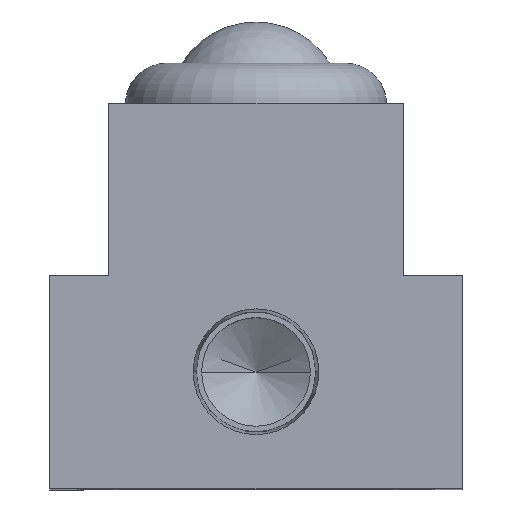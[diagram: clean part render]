
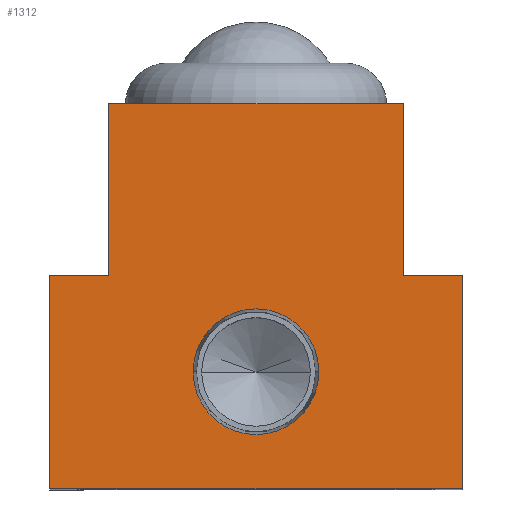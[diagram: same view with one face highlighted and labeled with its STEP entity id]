
A CAD part, top view. The second image highlights one B-rep face of the part: STEP entity #1312.
In plain terms, the highlighted planar face has unit normal (0, 0, 1).
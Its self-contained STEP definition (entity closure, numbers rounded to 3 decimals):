
#7 = CARTESIAN_POINT ( 'NONE',  ( -10.7, 15.5, 0. ) ) ;
#35 = CARTESIAN_POINT ( 'NONE',  ( -4.574, 8.5, 0. ) ) ;
#45 = CARTESIAN_POINT ( 'NONE',  ( -10.7, 28., 0. ) ) ;
#53 = VERTEX_POINT ( 'NONE', #7 ) ;
#73 = LINE ( 'NONE', #45, #1296 ) ;
#94 = DIRECTION ( 'NONE',  ( 1., 0., 0. ) ) ;
#114 = DIRECTION ( 'NONE',  ( -1., 0., 0. ) ) ;
#134 = CARTESIAN_POINT ( 'NONE',  ( 0., 0., 0. ) ) ;
#154 = VECTOR ( 'NONE', #1339, 1000. ) ;
#187 = CARTESIAN_POINT ( 'NONE',  ( -10.7, 28., 0. ) ) ;
#194 = ORIENTED_EDGE ( 'NONE', *, *, #1491, .T. ) ;
#215 = EDGE_CURVE ( 'NONE', #1213, #1376, #557, .T. ) ;
#246 = DIRECTION ( 'NONE',  ( 0., 0., 1. ) ) ;
#301 = LINE ( 'NONE', #745, #893 ) ;
#303 = VERTEX_POINT ( 'NONE', #990 ) ;
#347 = ORIENTED_EDGE ( 'NONE', *, *, #1210, .T. ) ;
#367 = EDGE_CURVE ( 'NONE', #873, #1161, #615, .T. ) ;
#381 = CARTESIAN_POINT ( 'NONE',  ( 10.7, 28., 0. ) ) ;
#386 = EDGE_CURVE ( 'NONE', #303, #1213, #1010, .T. ) ;
#389 = AXIS2_PLACEMENT_3D ( 'NONE', #444, #1295, #559 ) ;
#423 = CARTESIAN_POINT ( 'NONE',  ( -10.7, 15.5, 0. ) ) ;
#428 = ORIENTED_EDGE ( 'NONE', *, *, #215, .T. ) ;
#442 = VERTEX_POINT ( 'NONE', #1142 ) ;
#444 = CARTESIAN_POINT ( 'NONE',  ( 0., 8.5, 0. ) ) ;
#448 = LINE ( 'NONE', #1215, #154 ) ;
#458 = CIRCLE ( 'NONE', #389, 4.574 ) ;
#528 = ORIENTED_EDGE ( 'NONE', *, *, #1177, .F. ) ;
#557 = LINE ( 'NONE', #1098, #1462 ) ;
#559 = DIRECTION ( 'NONE',  ( 1., 0., 0. ) ) ;
#565 = CARTESIAN_POINT ( 'NONE',  ( 10.7, 15.5, 0. ) ) ;
#567 = VECTOR ( 'NONE', #659, 1000. ) ;
#615 = LINE ( 'NONE', #187, #894 ) ;
#656 = ORIENTED_EDGE ( 'NONE', *, *, #386, .T. ) ;
#659 = DIRECTION ( 'NONE',  ( -1., 0., 0. ) ) ;
#671 = EDGE_LOOP ( 'NONE', ( #847, #1328, #194, #756, #1476, #656, #428, #347 ) ) ;
#686 = VERTEX_POINT ( 'NONE', #1070 ) ;
#699 = VECTOR ( 'NONE', #114, 1000. ) ;
#721 = CARTESIAN_POINT ( 'NONE',  ( 15., 15.5, 0. ) ) ;
#745 = CARTESIAN_POINT ( 'NONE',  ( -15., 0., 0. ) ) ;
#756 = ORIENTED_EDGE ( 'NONE', *, *, #1087, .T. ) ;
#782 = DIRECTION ( 'NONE',  ( 0., 0., 1. ) ) ;
#787 = EDGE_CURVE ( 'NONE', #686, #873, #448, .T. ) ;
#808 = CARTESIAN_POINT ( 'NONE',  ( 15., 0., 0. ) ) ;
#829 = PLANE ( 'NONE',  #1527 ) ;
#847 = ORIENTED_EDGE ( 'NONE', *, *, #787, .T. ) ;
#864 = DIRECTION ( 'NONE',  ( 0., -1., 0. ) ) ;
#873 = VERTEX_POINT ( 'NONE', #381 ) ;
#888 = LINE ( 'NONE', #423, #567 ) ;
#889 = DIRECTION ( 'NONE',  ( 1., 0., 0. ) ) ;
#892 = EDGE_CURVE ( 'NONE', #442, #303, #301, .T. ) ;
#893 = VECTOR ( 'NONE', #864, 1000. ) ;
#894 = VECTOR ( 'NONE', #1263, 1000. ) ;
#936 = VERTEX_POINT ( 'NONE', #995 ) ;
#939 = FACE_BOUND ( 'NONE', #1162, .T. ) ;
#977 = AXIS2_PLACEMENT_3D ( 'NONE', #1514, #782, #94 ) ;
#990 = CARTESIAN_POINT ( 'NONE',  ( -15., 0., 0. ) ) ;
#995 = CARTESIAN_POINT ( 'NONE',  ( 4.574, 8.5, 0. ) ) ;
#1010 = LINE ( 'NONE', #1503, #1511 ) ;
#1020 = LINE ( 'NONE', #565, #699 ) ;
#1070 = CARTESIAN_POINT ( 'NONE',  ( 10.7, 15.5, 0. ) ) ;
#1074 = DIRECTION ( 'NONE',  ( 1., 0., 0. ) ) ;
#1085 = EDGE_CURVE ( 'NONE', #1434, #936, #1219, .T. ) ;
#1087 = EDGE_CURVE ( 'NONE', #53, #442, #888, .T. ) ;
#1098 = CARTESIAN_POINT ( 'NONE',  ( 15., 0., 0. ) ) ;
#1142 = CARTESIAN_POINT ( 'NONE',  ( -15., 15.5, 0. ) ) ;
#1161 = VERTEX_POINT ( 'NONE', #1526 ) ;
#1162 = EDGE_LOOP ( 'NONE', ( #528, #1279 ) ) ;
#1177 = EDGE_CURVE ( 'NONE', #936, #1434, #458, .T. ) ;
#1210 = EDGE_CURVE ( 'NONE', #1376, #686, #1020, .T. ) ;
#1213 = VERTEX_POINT ( 'NONE', #808 ) ;
#1215 = CARTESIAN_POINT ( 'NONE',  ( 10.7, 28., 0. ) ) ;
#1219 = CIRCLE ( 'NONE', #977, 4.574 ) ;
#1235 = DIRECTION ( 'NONE',  ( 0., -1., 0. ) ) ;
#1263 = DIRECTION ( 'NONE',  ( -1., 0., 0. ) ) ;
#1279 = ORIENTED_EDGE ( 'NONE', *, *, #1085, .F. ) ;
#1295 = DIRECTION ( 'NONE',  ( 0., 0., 1. ) ) ;
#1296 = VECTOR ( 'NONE', #1235, 1000. ) ;
#1312 = ADVANCED_FACE ( 'NONE', ( #939, #1519 ), #829, .T. ) ;
#1328 = ORIENTED_EDGE ( 'NONE', *, *, #367, .T. ) ;
#1339 = DIRECTION ( 'NONE',  ( 0., 1., 0. ) ) ;
#1376 = VERTEX_POINT ( 'NONE', #721 ) ;
#1434 = VERTEX_POINT ( 'NONE', #35 ) ;
#1462 = VECTOR ( 'NONE', #1466, 1000. ) ;
#1466 = DIRECTION ( 'NONE',  ( 0., 1., 0. ) ) ;
#1476 = ORIENTED_EDGE ( 'NONE', *, *, #892, .T. ) ;
#1491 = EDGE_CURVE ( 'NONE', #1161, #53, #73, .T. ) ;
#1503 = CARTESIAN_POINT ( 'NONE',  ( 15., 0., 0. ) ) ;
#1511 = VECTOR ( 'NONE', #889, 1000. ) ;
#1514 = CARTESIAN_POINT ( 'NONE',  ( 0., 8.5, 0. ) ) ;
#1519 = FACE_OUTER_BOUND ( 'NONE', #671, .T. ) ;
#1526 = CARTESIAN_POINT ( 'NONE',  ( -10.7, 28., 0. ) ) ;
#1527 = AXIS2_PLACEMENT_3D ( 'NONE', #134, #246, #1074 ) ;
